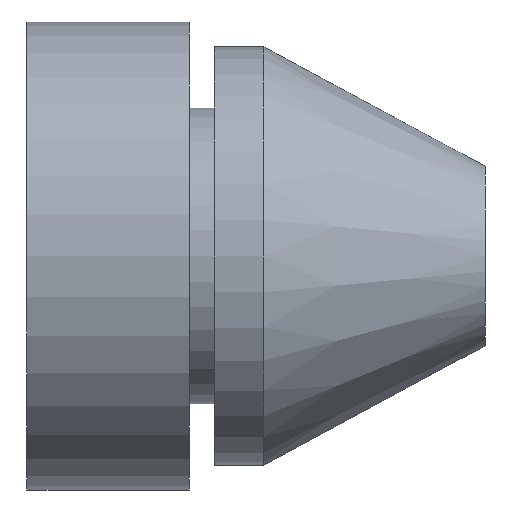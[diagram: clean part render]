
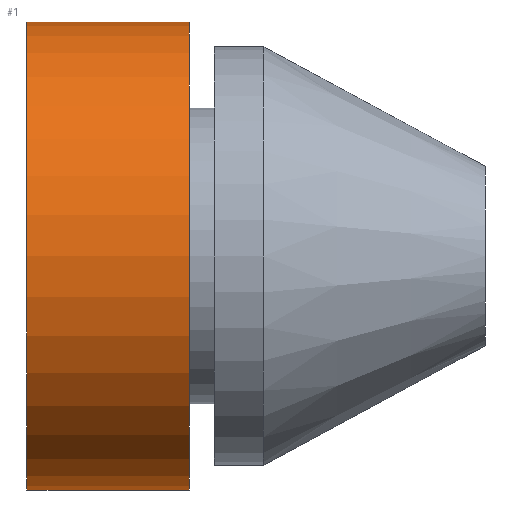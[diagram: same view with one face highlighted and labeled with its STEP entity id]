
A CAD part, left-side view. The second image highlights one B-rep face of the part: STEP entity #1.
In plain terms, the highlighted cylindrical face has radius 9.5 mm (diameter 19 mm), a partial arc.
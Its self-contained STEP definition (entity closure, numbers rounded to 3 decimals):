
#1 = ADVANCED_FACE ( 'NONE', ( #29 ), #383, .T. ) ;
#19 = ORIENTED_EDGE ( 'NONE', *, *, #267, .T. ) ;
#25 = ORIENTED_EDGE ( 'NONE', *, *, #270, .F. ) ;
#27 = ORIENTED_EDGE ( 'NONE', *, *, #261, .F. ) ;
#29 = FACE_OUTER_BOUND ( 'NONE', #358, .T. ) ;
#30 = ORIENTED_EDGE ( 'NONE', *, *, #273, .T. ) ;
#92 = CARTESIAN_POINT ( 'NONE',  ( 0., 18.6, 0. ) ) ;
#99 = CARTESIAN_POINT ( 'NONE',  ( 0., 0., -9.5 ) ) ;
#100 = DIRECTION ( 'NONE',  ( 0., 0., -1. ) ) ;
#103 = DIRECTION ( 'NONE',  ( 0., -1., 0. ) ) ;
#104 = CARTESIAN_POINT ( 'NONE',  ( 0., 12., 0. ) ) ;
#112 = DIRECTION ( 'NONE',  ( 0., 0., -1. ) ) ;
#113 = DIRECTION ( 'NONE',  ( 0., -1., 0. ) ) ;
#170 = AXIS2_PLACEMENT_3D ( 'NONE', #92, #113, #112 ) ;
#172 = AXIS2_PLACEMENT_3D ( 'NONE', #104, #103, #100 ) ;
#229 = DIRECTION ( 'NONE',  ( 0., 0., -1. ) ) ;
#231 = CARTESIAN_POINT ( 'NONE',  ( 0., 0., 0. ) ) ;
#233 = DIRECTION ( 'NONE',  ( 0., -1., 0. ) ) ;
#250 = DIRECTION ( 'NONE',  ( 0., -1., 0. ) ) ;
#259 = CARTESIAN_POINT ( 'NONE',  ( 0., 0., 9.5 ) ) ;
#261 = EDGE_CURVE ( 'NONE', #364, #366, #333, .T. ) ;
#267 = EDGE_CURVE ( 'NONE', #364, #365, #324, .T. ) ;
#270 = EDGE_CURVE ( 'NONE', #366, #362, #323, .T. ) ;
#273 = EDGE_CURVE ( 'NONE', #365, #362, #318, .T. ) ;
#279 = AXIS2_PLACEMENT_3D ( 'NONE', #231, #233, #229 ) ;
#292 = CARTESIAN_POINT ( 'NONE',  ( 0., 18.6, -9.5 ) ) ;
#299 = CARTESIAN_POINT ( 'NONE',  ( 0., 12., -9.5 ) ) ;
#300 = DIRECTION ( 'NONE',  ( 0., -1., 0. ) ) ;
#303 = CARTESIAN_POINT ( 'NONE',  ( 0., 12., 9.5 ) ) ;
#307 = CARTESIAN_POINT ( 'NONE',  ( 0., 18.6, 9.5 ) ) ;
#318 = LINE ( 'NONE', #99, #347 ) ;
#323 = CIRCLE ( 'NONE', #172, 9.5 ) ;
#324 = CIRCLE ( 'NONE', #170, 9.5 ) ;
#330 = VECTOR ( 'NONE', #250, 1000. ) ;
#333 = LINE ( 'NONE', #259, #330 ) ;
#347 = VECTOR ( 'NONE', #300, 1000. ) ;
#358 = EDGE_LOOP ( 'NONE', ( #27, #19, #30, #25 ) ) ;
#362 = VERTEX_POINT ( 'NONE', #299 ) ;
#364 = VERTEX_POINT ( 'NONE', #307 ) ;
#365 = VERTEX_POINT ( 'NONE', #292 ) ;
#366 = VERTEX_POINT ( 'NONE', #303 ) ;
#383 = CYLINDRICAL_SURFACE ( 'NONE', #279, 9.5 ) ;
